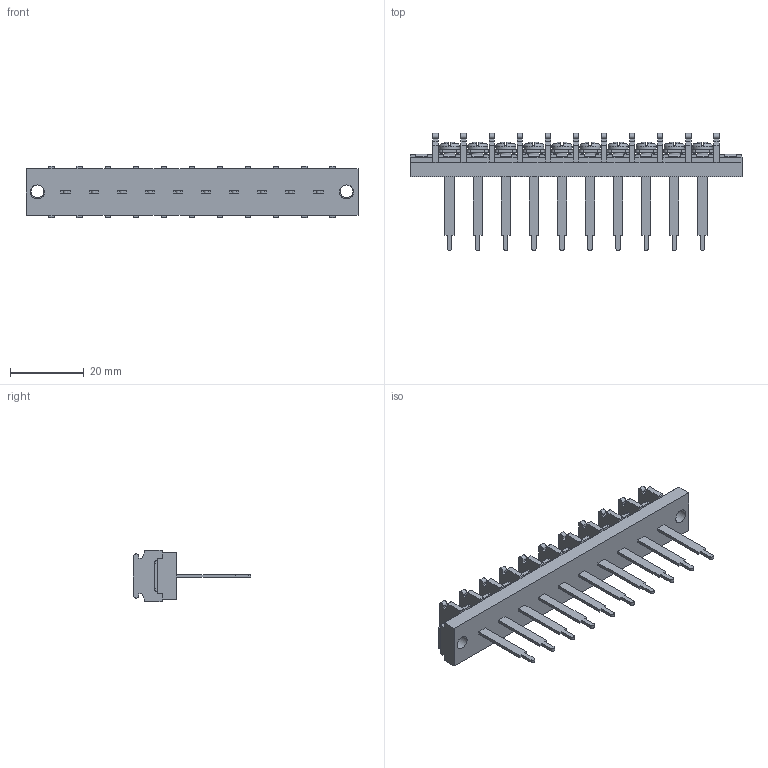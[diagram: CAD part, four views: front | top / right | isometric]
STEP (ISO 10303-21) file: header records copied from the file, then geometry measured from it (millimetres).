
FILE_DESCRIPTION(/* description */ ('Alibre Inc.'),/* implementation_level */ '2;1');
FILE_NAME(/* name */ 'export0',/* time_stamp */ '2015-10-26T16:33:03+09:00',/* author */ (''),/* organization */ (''),/* preprocessor_version */ 'ST-DEVELOPER v14',/* originating_system */ 'Alibre',/* authorisation */ '');
FILE_SCHEMA (('CONFIG_CONTROL_DESIGN'));
Length unit declared in the file: centimetre
Products named in the file (1): ID_1
Bounding box: 90.02 x 31.8 x 14 mm (x, y, z)
Volume: 8397.5 mm3; surface area: 8688.1 mm2
Topology: 1 solids, 17 shells, 1612 faces, 4400 edges, 2884 vertices
Faces by surface type: plane 1264, cylinder 164, bspline 104, cone 40, torus 20, sphere 20
Full cylindrical faces by diameter (mm): 3 x10, 3.5 x2, 3.8 x2, 5.5 x10
Entity records: 48073 total; most frequent: CARTESIAN_POINT 10087, ORIENTED_EDGE 8664, DIRECTION 6104, EDGE_CURVE 4332, VECTOR 3172, LINE 3172, VERTEX_POINT 2860, AXIS2_PLACEMENT_3D 2047
